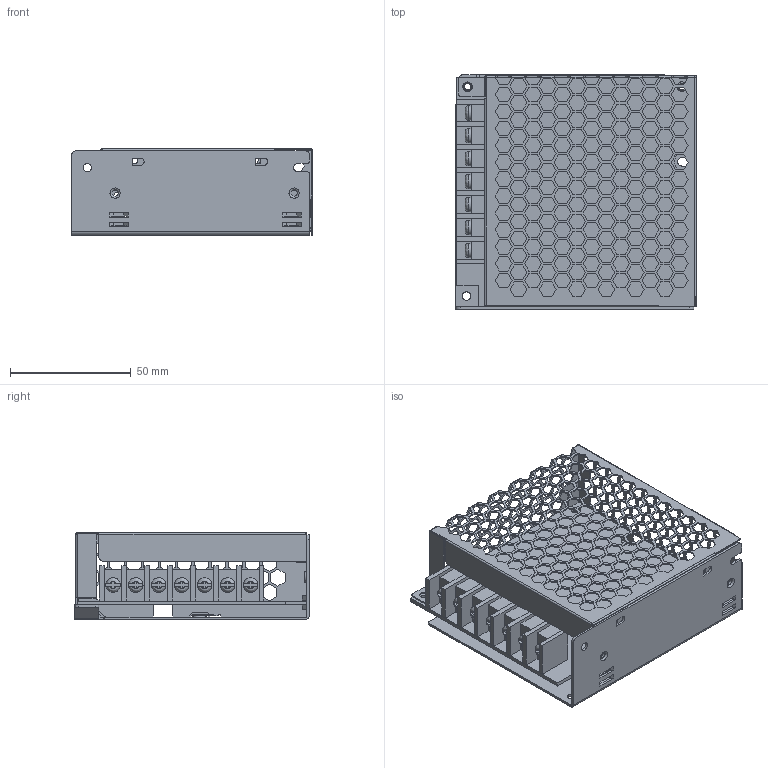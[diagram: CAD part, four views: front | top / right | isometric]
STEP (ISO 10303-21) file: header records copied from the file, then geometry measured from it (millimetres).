
FILE_DESCRIPTION((''),'2;1');
FILE_NAME('C:\Users\shirley\Desktop\RD-50.stp','2019-08-20T10:16:26',('shirley'),(''),'Autodesk Inventor 2010','Autodesk Inventor 2010','');
FILE_SCHEMA(('AUTOMOTIVE_DESIGN { 1 0 10303 214 1 1 1 1 }'));
Length unit declared in the file: millimetre
Products named in the file (5): RD-50; RD-50-D; RD-50-T; PCB; TN
Assembly tree (4 placements, depth 2):
  RD-50
    RD-50-D
    RD-50-T
    PCB
    TN
Bounding box: 99.56 x 97 x 35.9 mm (x, y, z)
Volume: 41222.5 mm3; surface area: 69830.2 mm2
Topology: 4 solids, 4 shells, 2111 faces, 6280 edges, 4212 vertices
Faces by surface type: plane 1964, cylinder 111, bspline 28, torus 8
Full cylindrical faces by diameter (mm): 2.65 x6, 3.3 x1, 3.5 x2, 4 x3, 4.27 x4, 6 x7
Entity records: 72005 total; most frequent: CARTESIAN_POINT 14102, ORIENTED_EDGE 12364, DIRECTION 10647, EDGE_CURVE 6182, VECTOR 5891, LINE 5891, VERTEX_POINT 4097, EDGE_LOOP 2705
